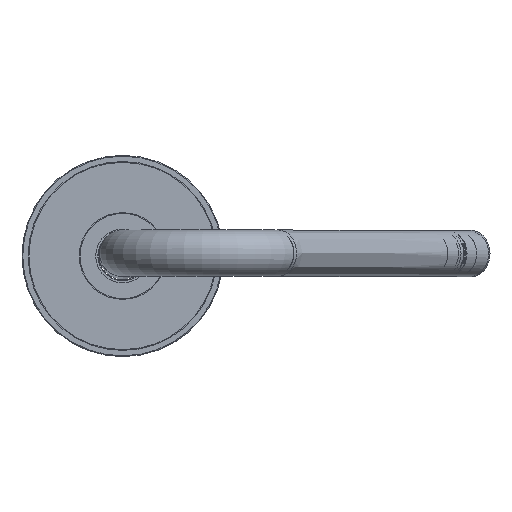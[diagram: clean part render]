
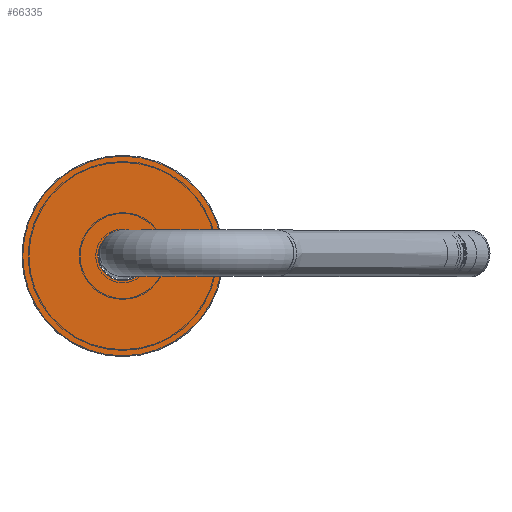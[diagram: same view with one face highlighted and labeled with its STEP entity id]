
A CAD part, top view. The second image highlights one B-rep face of the part: STEP entity #66335.
In plain terms, the highlighted planar face has unit normal (0, 0, 1).
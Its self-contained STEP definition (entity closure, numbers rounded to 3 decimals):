
#49056=PLANE('',#66961);
#65389=ORIENTED_EDGE('',*,*,#65665,.T.);
#65390=ORIENTED_EDGE('',*,*,#65666,.T.);
#65665=EDGE_CURVE('',#65803,#65803,#65917,.T.);
#65666=EDGE_CURVE('',#65804,#65804,#65918,.F.);
#65803=VERTEX_POINT('',#116397);
#65804=VERTEX_POINT('',#116399);
#65917=CIRCLE('',#66962,16.);
#65918=CIRCLE('',#66963,64.5);
#65995=EDGE_LOOP('',(#65389));
#65996=EDGE_LOOP('',(#65390));
#66153=FACE_BOUND('',#65995,.T.);
#66154=FACE_BOUND('',#65996,.T.);
#66335=ADVANCED_FACE('',(#66153,#66154),#49056,.F.);
#66961=AXIS2_PLACEMENT_3D('',#116395,#83437,#83438);
#66962=AXIS2_PLACEMENT_3D('',#116396,#83439,#83440);
#66963=AXIS2_PLACEMENT_3D('',#116398,#83441,#83442);
#83437=DIRECTION('',(0.,0.,-1.));
#83438=DIRECTION('',(-1.,0.,0.));
#83439=DIRECTION('',(0.,0.,-1.));
#83440=DIRECTION('',(-1.,0.,0.));
#83441=DIRECTION('',(0.,0.,-1.));
#83442=DIRECTION('',(-1.,0.,0.));
#116395=CARTESIAN_POINT('',(0.,0.,13.));
#116396=CARTESIAN_POINT('',(0.,0.,13.));
#116397=CARTESIAN_POINT('',(-16.,0.,13.));
#116398=CARTESIAN_POINT('',(0.,0.,13.));
#116399=CARTESIAN_POINT('',(-64.5,0.,13.));
